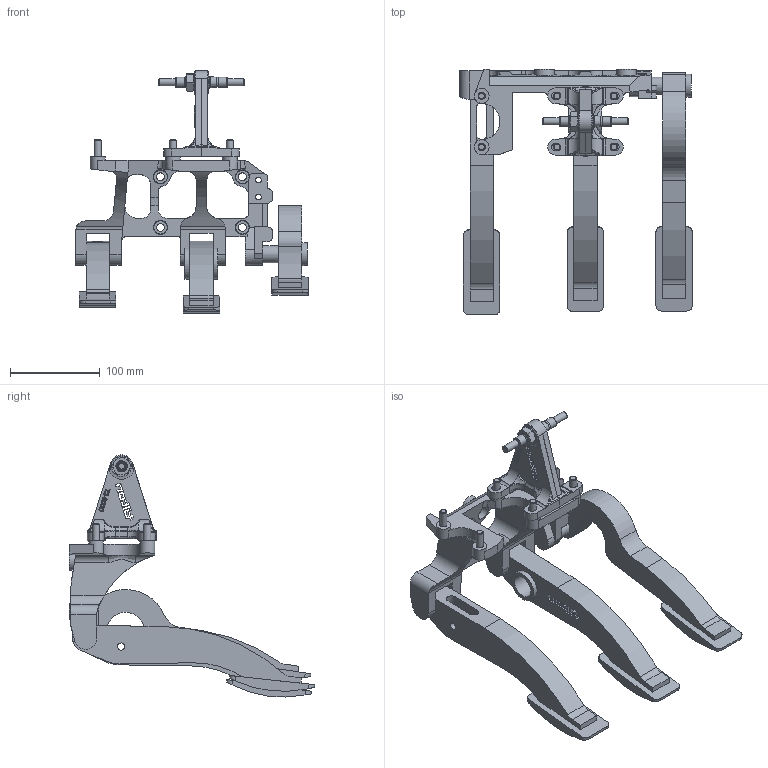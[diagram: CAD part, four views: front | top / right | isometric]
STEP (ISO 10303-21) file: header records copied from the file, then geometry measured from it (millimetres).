
FILE_DESCRIPTION(/* description */ ('Unknown'),/* implementation_level */ '2;1');
FILE_NAME(/* name */ '72-803, 11-22-16',/* time_stamp */ '2016-11-22T15:50:51-08:00',/* author */ ('Unknown'),/* organization */ ('Unknown'),/* preprocessor_version */ 'ST-DEVELOPER v16.7',/* originating_system */ 'DEX',/* authorisation */ $);
FILE_SCHEMA (('AUTOMOTIVE_DESIGN {1 0 10303 214 3 1 1}'));
Length unit declared in the file: millimetre
Products named in the file (1): 72-803, 11-22-162
Bounding box: 259.73 x 273.97 x 270.28 mm (x, y, z)
Volume: 1133402.4 mm3; surface area: 231968.8 mm2
Topology: 3 solids, 7 shells, 699 faces, 1893 edges, 1234 vertices
Faces by surface type: plane 354, cylinder 223, bspline 79, cone 29, torus 14
Full cylindrical faces by diameter (mm): 6.528 x2, 7.938 x8, 8.026 x2, 8.75 x4, 9.525 x2, 10.312 x2, 11.176 x2, 12.7 x3, 12.713 x2, 12.725 x1, 13.97 x1, 15.875 x4, 16.51 x6, 19.05 x2, 21.59 x2, 25.4 x1, 25.476 x1, 34.544 x2
Entity records: 28330 total; most frequent: CARTESIAN_POINT 11657, ORIENTED_EDGE 3536, DIRECTION 3162, EDGE_CURVE 1768, VERTEX_POINT 1187, AXIS2_PLACEMENT_3D 1094, LINE 974, VECTOR 974
